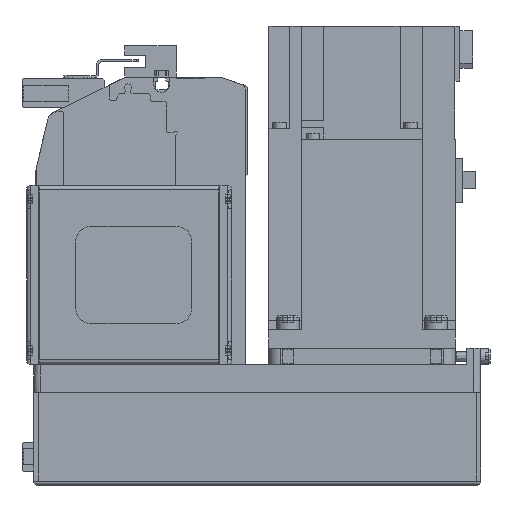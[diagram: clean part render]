
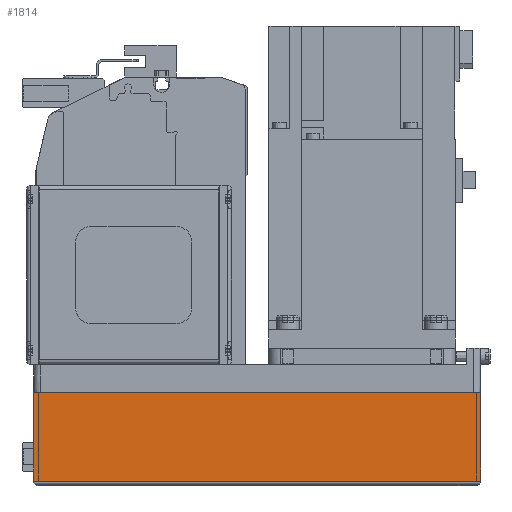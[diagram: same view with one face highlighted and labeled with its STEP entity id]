
A CAD part, left-side view. The second image highlights one B-rep face of the part: STEP entity #1814.
In plain terms, the highlighted planar face has unit normal (-1, 0, 0) as drawn and (0, 1, 0) by its records, which use the part's own axes.
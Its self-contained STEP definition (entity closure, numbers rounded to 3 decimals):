
#1814 = ADVANCED_FACE( '', ( #4531 ), #4532, .T. );
#4531 = FACE_OUTER_BOUND( '', #8459, .T. );
#4532 = PLANE( '', #8460 );
#8459 = EDGE_LOOP( '', ( #13650, #13651, #13652, #13653 ) );
#8460 = AXIS2_PLACEMENT_3D( '', #13654, #13655, #13656 );
#13650 = ORIENTED_EDGE( '', *, *, #23048, .F. );
#13651 = ORIENTED_EDGE( '', *, *, #23049, .F. );
#13652 = ORIENTED_EDGE( '', *, *, #23050, .T. );
#13653 = ORIENTED_EDGE( '', *, *, #23051, .T. );
#13654 = CARTESIAN_POINT( '', ( -192., 40., -50. ) );
#13655 = DIRECTION( '', ( 0., 1., 0. ) );
#13656 = DIRECTION( '', ( 0., 0., 1. ) );
#23048 = EDGE_CURVE( '', #27918, #27919, #27920, .T. );
#23049 = EDGE_CURVE( '', #27921, #27918, #27922, .T. );
#23050 = EDGE_CURVE( '', #27921, #27923, #27924, .T. );
#23051 = EDGE_CURVE( '', #27923, #27919, #27925, .T. );
#27918 = VERTEX_POINT( '', #34906 );
#27919 = VERTEX_POINT( '', #34907 );
#27920 = LINE( '', #34908, #34909 );
#27921 = VERTEX_POINT( '', #34910 );
#27922 = LINE( '', #34911, #34912 );
#27923 = VERTEX_POINT( '', #34913 );
#27924 = LINE( '', #34914, #34915 );
#27925 = LINE( '', #34916, #34917 );
#34906 = CARTESIAN_POINT( '', ( 0., 40., -50. ) );
#34907 = CARTESIAN_POINT( '', ( 0., 40., -12.1 ) );
#34908 = CARTESIAN_POINT( '', ( 0., 40., -50. ) );
#34909 = VECTOR( '', #42763, 1000. );
#34910 = CARTESIAN_POINT( '', ( -192., 40., -50. ) );
#34911 = CARTESIAN_POINT( '', ( -192., 40., -50. ) );
#34912 = VECTOR( '', #42764, 1000. );
#34913 = CARTESIAN_POINT( '', ( -192., 40., -12.1 ) );
#34914 = CARTESIAN_POINT( '', ( -192., 40., -50. ) );
#34915 = VECTOR( '', #42765, 1000. );
#34916 = CARTESIAN_POINT( '', ( -192., 40., -12.1 ) );
#34917 = VECTOR( '', #42766, 1000. );
#42763 = DIRECTION( '', ( 0., 0., 1. ) );
#42764 = DIRECTION( '', ( 1., 0., 0. ) );
#42765 = DIRECTION( '', ( 0., 0., 1. ) );
#42766 = DIRECTION( '', ( 1., 0., 0. ) );
